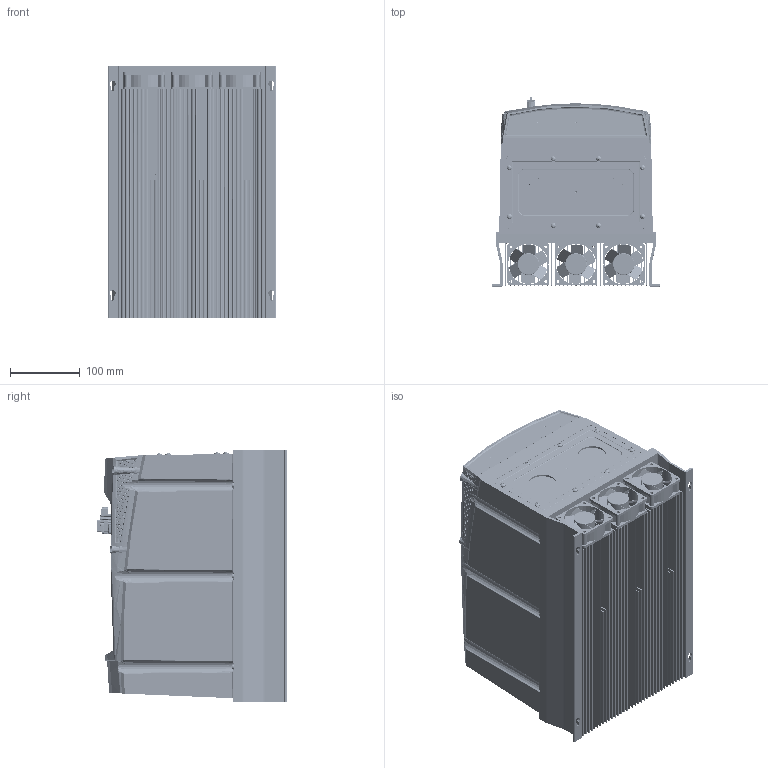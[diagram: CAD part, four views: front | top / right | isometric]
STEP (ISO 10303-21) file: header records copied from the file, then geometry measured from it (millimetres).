
FILE_DESCRIPTION (( 'STEP AP214' ), '1' );
FILE_NAME ('E3 IP66 Size 4 - basic.STEP', '2019-02-19T15:17:18', ( '' ), ( '' ), 'SwSTEP 2.0', 'SolidWorks 2019', '' );
FILE_SCHEMA (( 'AUTOMOTIVE_DESIGN' ));
Products named in the file (1): E3 IP66 Size 4 - basic
Bounding box: 240 x 271.35 x 360 mm (x, y, z)
Volume: 14654870.2 mm3; surface area: 2061494.9 mm2
Topology: 2 solids, 14 shells, 7068 faces, 21189 edges, 14004 vertices
Faces by surface type: cylinder 2282, sphere 1543, plane 1527, bspline 1110, cone 486, torus 120
Entity records: 319274 total; most frequent: CARTESIAN_POINT 153621, ORIENTED_EDGE 37922, DIRECTION 30881, EDGE_CURVE 18961, AXIS2_PLACEMENT_3D 12789, VERTEX_POINT 12560, EDGE_LOOP 7897, ADVANCED_FACE 7064
